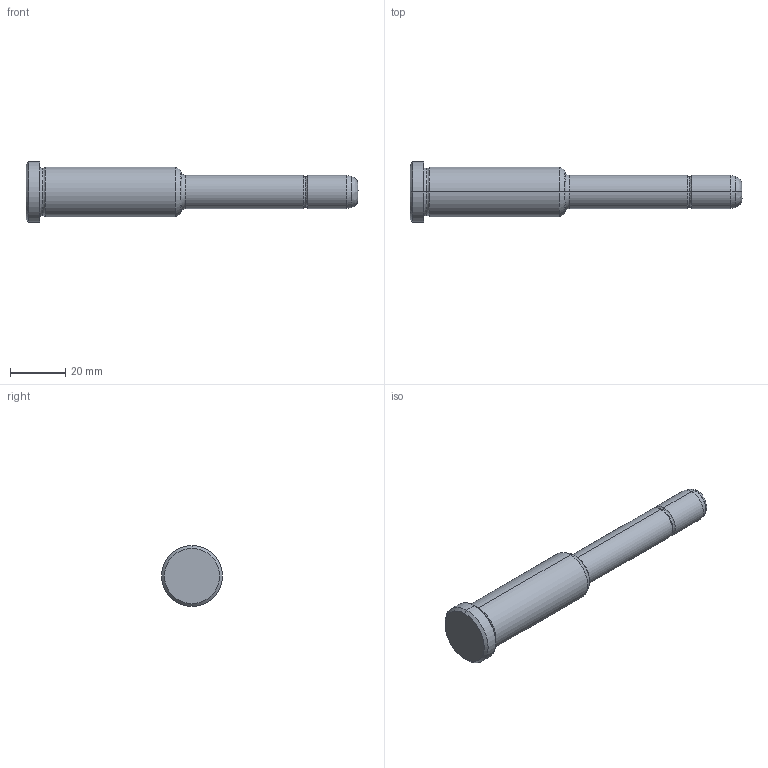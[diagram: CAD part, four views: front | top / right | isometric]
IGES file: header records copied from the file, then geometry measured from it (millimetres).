
Start section: START RECORD GO HERE.
Global section: file name: 351-12X56X120.igs; native system: DASSAULT SYSTEMES CATIA V5 R20 - www.3ds.com; preprocessor: CATIA Version 5 Release 20 ; author: Utente; organization: NB04-ASUS; date: 20210817.151413; units: millimetre
Bounding box: 120 x 22 x 22 mm (x, y, z)
Surface area: 6242.4 mm2 (no closed solid volume)
Topology: 0 solids, 0 shells, 30 faces, 172 edges, 172 vertices
Faces by surface type: revolution 24, plane 4, bspline 2
